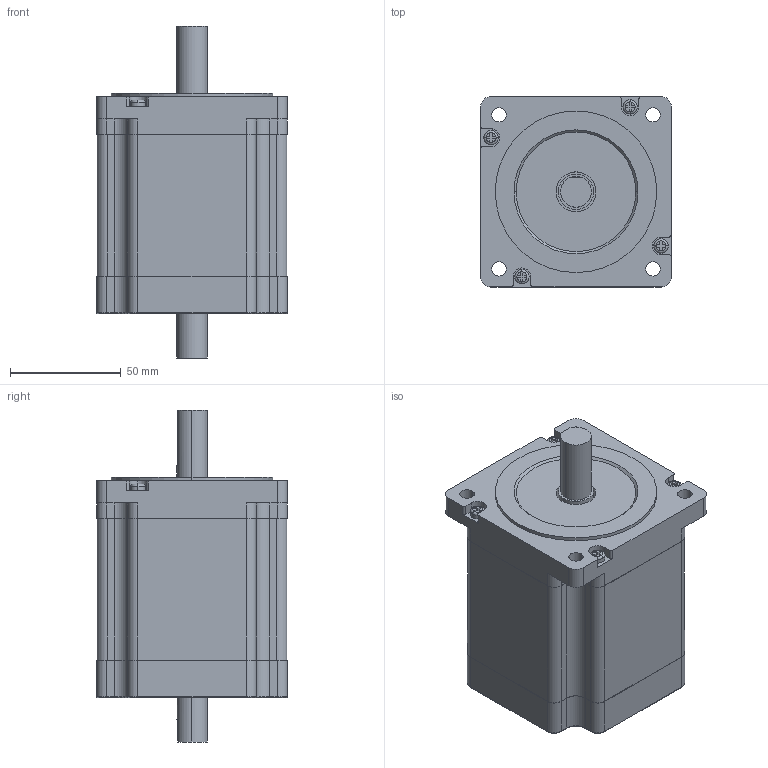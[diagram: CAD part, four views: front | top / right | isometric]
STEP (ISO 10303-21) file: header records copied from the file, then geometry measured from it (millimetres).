
FILE_DESCRIPTION (( 'STEP AP203' ), '1' );
FILE_NAME ('86CM80-ZK.STEP', '2021-04-21T06:05:16', ( 'Owner' ), ( 'Organization' ), 'SwSTEP 2.0', 'SolidWorks 2018', '' );
FILE_SCHEMA (( 'CONFIG_CONTROL_DESIGN' ));
Length unit declared in the file: millimetre
Products named in the file (1): 86CM80-ZK
Bounding box: 86 x 86 x 150 mm (x, y, z)
Volume: 662128.7 mm3; surface area: 50900 mm2
Topology: 1 solids, 1 shells, 272 faces, 694 edges, 440 vertices
Faces by surface type: plane 122, cylinder 120, bspline 20, torus 8, cone 2
Entity records: 8559 total; most frequent: CARTESIAN_POINT 1767, DIRECTION 1472, ORIENTED_EDGE 1388, EDGE_CURVE 694, AXIS2_PLACEMENT_3D 545, VERTEX_POINT 440, VECTOR 382, LINE 382
